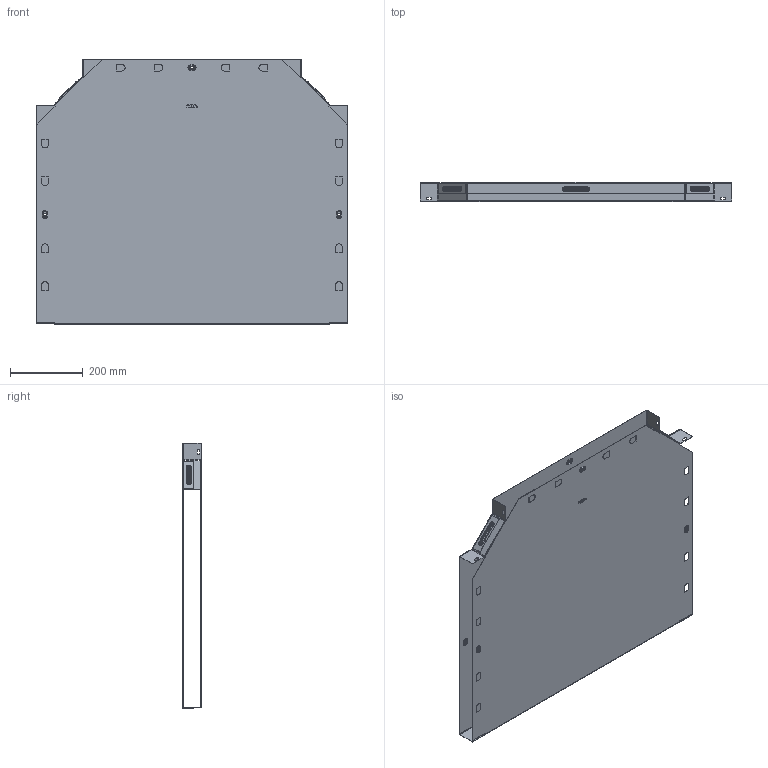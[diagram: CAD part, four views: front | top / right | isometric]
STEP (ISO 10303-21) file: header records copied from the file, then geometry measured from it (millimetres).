
FILE_DESCRIPTION (( 'STEP AP214' ), '1' );
FILE_NAME ('t5060008_捘.STEP', '2019-06-10T08:12:35', ( '砐錪賧瘔蠈錪 Windows' ), ( '' ), 'SwSTEP 2.0', 'SolidWorks 2018', '' );
FILE_SCHEMA (( 'AUTOMOTIVE_DESIGN' ));
Length unit declared in the file: millimetre
Products named in the file (1): t5060008_捘
Bounding box: 856.4 x 53.8 x 731 mm (x, y, z)
Volume: 1017723.2 mm3; surface area: 2551405.2 mm2
Topology: 2 solids, 2 shells, 678 faces, 1878 edges, 1216 vertices
Faces by surface type: plane 370, cylinder 194, torus 96, bspline 18
Entity records: 22750 total; most frequent: CARTESIAN_POINT 4868, ORIENTED_EDGE 3756, DIRECTION 3696, EDGE_CURVE 1878, LINE 1310, VECTOR 1310, VERTEX_POINT 1216, AXIS2_PLACEMENT_3D 1193
